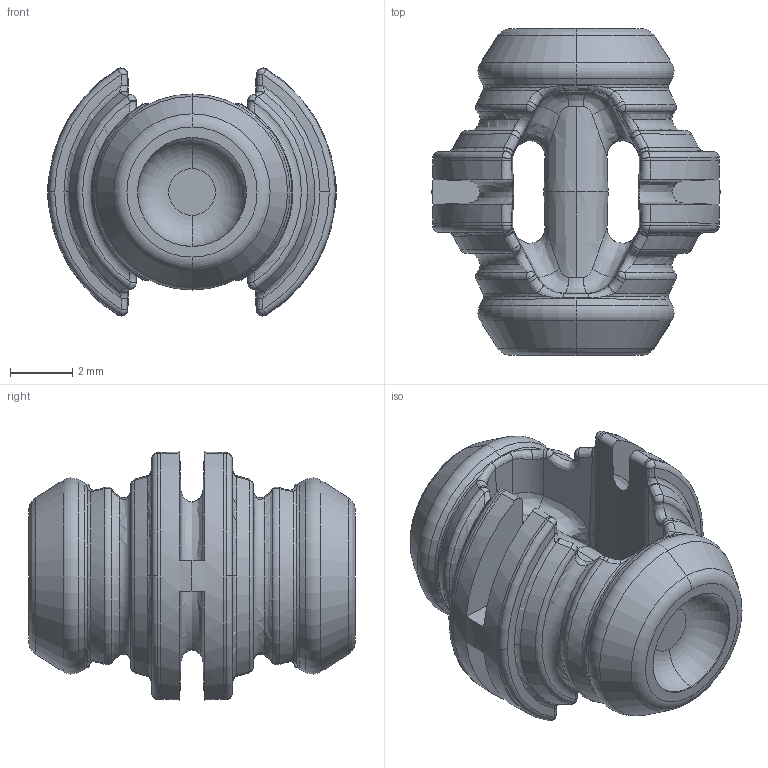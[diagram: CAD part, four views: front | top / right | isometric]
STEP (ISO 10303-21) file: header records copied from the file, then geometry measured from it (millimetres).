
FILE_DESCRIPTION (( 'STEP AP203' ), '1' );
FILE_NAME ('Diva Male 2,0mm_customer_.STEP', '2021-12-10T08:14:20', ( '' ), ( '' ), 'SwSTEP 2.0', 'SolidWorks 2020', '' );
FILE_SCHEMA (( 'CONFIG_CONTROL_DESIGN' ));
Length unit declared in the file: millimetre
Products named in the file (1): Diva Male 2,0mm_customer_
Bounding box: 9.26 x 10.5 x 7.97 mm (x, y, z)
Surface area: 431.6 mm2 (no closed solid volume)
Topology: 0 solids, 5 shells, 280 faces, 720 edges, 424 vertices
Faces by surface type: bspline 100, cone 62, torus 48, sphere 28, plane 28, cylinder 14
Entity records: 11040 total; most frequent: CARTESIAN_POINT 5360, ORIENTED_EDGE 1308, DIRECTION 998, EDGE_CURVE 672, AXIS2_PLACEMENT_3D 461, VERTEX_POINT 392, B_SPLINE_CURVE_WITH_KNOTS 304, EDGE_LOOP 282
